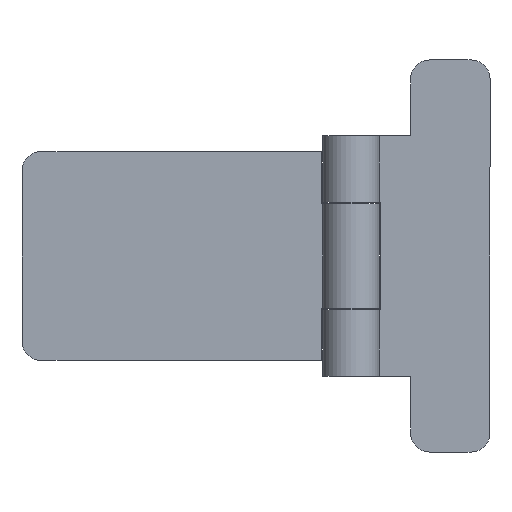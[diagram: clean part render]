
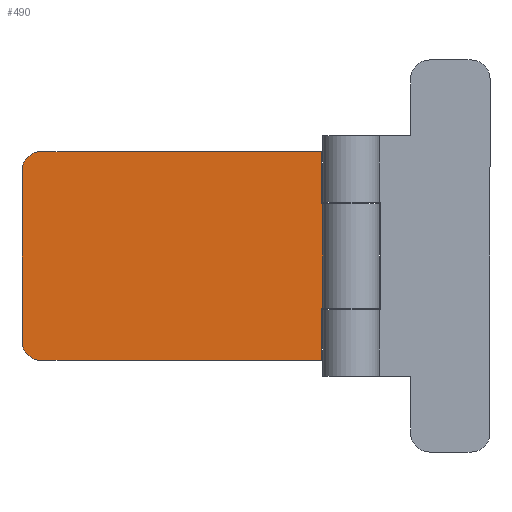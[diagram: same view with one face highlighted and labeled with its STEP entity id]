
A CAD part, front view. The second image highlights one B-rep face of the part: STEP entity #490.
In plain terms, the highlighted planar face has unit normal (0, -1, 0).
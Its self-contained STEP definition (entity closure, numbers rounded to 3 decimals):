
#323=CARTESIAN_POINT('',(0.,2.45,27.25));
#324=VERTEX_POINT('',#323);
#332=CARTESIAN_POINT('',(0.,2.45,10.75));
#333=VERTEX_POINT('',#332);
#334=CARTESIAN_POINT('',(0.,2.45,10.75));
#335=DIRECTION('',(0.0,0.0,1.0));
#336=VECTOR('',#335,16.5);
#337=LINE('',#334,#336);
#338=EDGE_CURVE('',#333,#324,#337,.T.);
#383=CARTESIAN_POINT('',(-49.,2.45,35.5));
#384=VERTEX_POINT('',#383);
#385=CARTESIAN_POINT('',(-52.,2.45,32.5));
#386=VERTEX_POINT('',#385);
#387=CARTESIAN_POINT('',(-49.,2.45,32.5));
#388=DIRECTION('',(0.0,-1.0,0.0));
#389=DIRECTION('',(0.0,0.0,1.0));
#390=AXIS2_PLACEMENT_3D('',#387,#388,#389);
#391=CIRCLE('',#390,3.0);
#392=EDGE_CURVE('',#384,#386,#391,.T.);
#420=CARTESIAN_POINT('',(0.,2.45,2.5));
#421=DIRECTION('',(0.0,-1.0,0.0));
#422=DIRECTION('',(0.0,0.0,1.0));
#423=AXIS2_PLACEMENT_3D('',#420,#421,#422);
#424=PLANE('',#423);
#425=ORIENTED_EDGE('',*,*,#392,.T.);
#426=CARTESIAN_POINT('',(-52.,2.45,5.5));
#427=VERTEX_POINT('',#426);
#428=CARTESIAN_POINT('',(-52.,2.45,5.5));
#429=DIRECTION('',(0.0,0.0,1.0));
#430=VECTOR('',#429,27.);
#431=LINE('',#428,#430);
#432=EDGE_CURVE('',#427,#386,#431,.T.);
#433=ORIENTED_EDGE('',*,*,#432,.F.);
#434=CARTESIAN_POINT('',(-49.,2.45,2.5));
#435=VERTEX_POINT('',#434);
#436=CARTESIAN_POINT('',(-49.,2.45,5.5));
#437=DIRECTION('',(0.0,-1.0,0.0));
#438=DIRECTION('',(-1.0,0.0,0.0));
#439=AXIS2_PLACEMENT_3D('',#436,#437,#438);
#440=CIRCLE('',#439,3.0);
#441=EDGE_CURVE('',#427,#435,#440,.T.);
#442=ORIENTED_EDGE('',*,*,#441,.T.);
#443=CARTESIAN_POINT('',(-4.65,2.45,2.5));
#444=VERTEX_POINT('',#443);
#445=CARTESIAN_POINT('',(-4.65,2.45,2.5));
#446=DIRECTION('',(-1.0,0.0,0.0));
#447=VECTOR('',#446,44.35);
#448=LINE('',#445,#447);
#449=EDGE_CURVE('',#444,#435,#448,.T.);
#450=ORIENTED_EDGE('',*,*,#449,.F.);
#451=CARTESIAN_POINT('',(-4.65,2.45,10.75));
#452=VERTEX_POINT('',#451);
#453=CARTESIAN_POINT('',(-4.65,2.45,2.5));
#454=DIRECTION('',(0.0,0.0,1.0));
#455=VECTOR('',#454,8.25);
#456=LINE('',#453,#455);
#457=EDGE_CURVE('',#444,#452,#456,.T.);
#458=ORIENTED_EDGE('',*,*,#457,.T.);
#459=CARTESIAN_POINT('',(-4.65,2.45,10.75));
#460=DIRECTION('',(1.0,0.0,0.0));
#461=VECTOR('',#460,4.65);
#462=LINE('',#459,#461);
#463=EDGE_CURVE('',#452,#333,#462,.T.);
#464=ORIENTED_EDGE('',*,*,#463,.T.);
#465=ORIENTED_EDGE('',*,*,#338,.T.);
#466=CARTESIAN_POINT('',(-4.65,2.45,27.25));
#467=VERTEX_POINT('',#466);
#468=CARTESIAN_POINT('',(0.,2.45,27.25));
#469=DIRECTION('',(-1.0,0.0,0.0));
#470=VECTOR('',#469,4.65);
#471=LINE('',#468,#470);
#472=EDGE_CURVE('',#324,#467,#471,.T.);
#473=ORIENTED_EDGE('',*,*,#472,.T.);
#474=CARTESIAN_POINT('',(-4.65,2.45,35.5));
#475=VERTEX_POINT('',#474);
#476=CARTESIAN_POINT('',(-4.65,2.45,27.25));
#477=DIRECTION('',(0.0,0.0,1.0));
#478=VECTOR('',#477,8.25);
#479=LINE('',#476,#478);
#480=EDGE_CURVE('',#467,#475,#479,.T.);
#481=ORIENTED_EDGE('',*,*,#480,.T.);
#482=CARTESIAN_POINT('',(-4.65,2.45,35.5));
#483=DIRECTION('',(-1.0,0.0,0.0));
#484=VECTOR('',#483,44.35);
#485=LINE('',#482,#484);
#486=EDGE_CURVE('',#475,#384,#485,.T.);
#487=ORIENTED_EDGE('',*,*,#486,.T.);
#488=EDGE_LOOP('',(#425,#433,#442,#450,#458,#464,#465,#473,#481,#487));
#489=FACE_OUTER_BOUND('',#488,.T.);
#490=ADVANCED_FACE('',(#489),#424,.T.);
